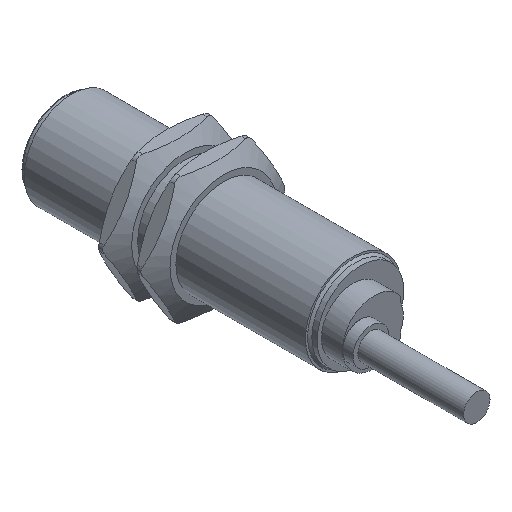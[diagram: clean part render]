
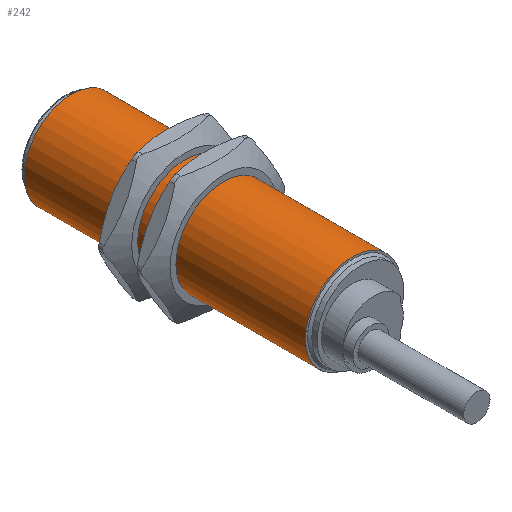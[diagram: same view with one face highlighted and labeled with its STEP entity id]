
A CAD part, isometric view. The second image highlights one B-rep face of the part: STEP entity #242.
In plain terms, the highlighted cylindrical face has radius 9 mm (diameter 18 mm), a full revolution.
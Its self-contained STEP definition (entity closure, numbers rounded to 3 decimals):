
#242=ADVANCED_FACE('',(#292,#293),#271,.T.);
#271=CYLINDRICAL_SURFACE('',#772,9.);
#292=FACE_BOUND('',#332,.T.);
#293=FACE_BOUND('',#333,.T.);
#332=EDGE_LOOP('',(#407));
#333=EDGE_LOOP('',(#408));
#407=ORIENTED_EDGE('',*,*,#653,.T.);
#408=ORIENTED_EDGE('',*,*,#654,.F.);
#571=VERTEX_POINT('',#1036);
#572=VERTEX_POINT('',#1038);
#653=EDGE_CURVE('',#571,#571,#737,.T.);
#654=EDGE_CURVE('',#572,#572,#738,.T.);
#737=CIRCLE('',#770,9.);
#738=CIRCLE('',#771,9.);
#770=AXIS2_PLACEMENT_3D('',#1035,#861,#862);
#771=AXIS2_PLACEMENT_3D('',#1037,#863,#864);
#772=AXIS2_PLACEMENT_3D('',#1039,#865,#866);
#861=DIRECTION('',(0.,1.,0.));
#862=DIRECTION('',(1.,0.,0.));
#863=DIRECTION('',(0.,1.,0.));
#864=DIRECTION('',(1.,0.,0.));
#865=DIRECTION('',(0.,1.,0.));
#866=DIRECTION('',(0.,0.,1.));
#1035=CARTESIAN_POINT('',(0.,0.4,0.));
#1036=CARTESIAN_POINT('',(9.,0.4,0.));
#1037=CARTESIAN_POINT('',(0.,53.6,0.));
#1038=CARTESIAN_POINT('',(9.,53.6,0.));
#1039=CARTESIAN_POINT('',(0.,0.4,0.));
